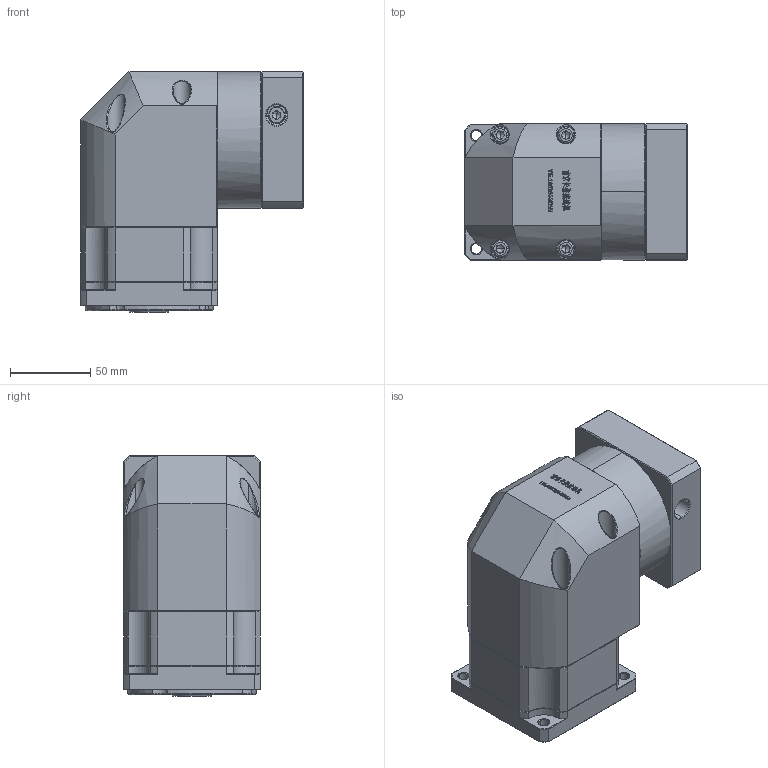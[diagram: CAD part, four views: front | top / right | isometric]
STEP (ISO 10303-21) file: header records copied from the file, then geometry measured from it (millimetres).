
FILE_DESCRIPTION (( 'STEP AP214' ), '1' );
FILE_NAME ('ZBR90-K15-L1-19-80-100-M6.STEP', '2022-05-07T14:44:45', ( '' ), ( 'Microsoft' ), 'SwSTEP 2.0', 'SolidWorks 2016', '' );
FILE_SCHEMA (( 'AUTOMOTIVE_DESIGN' ));
Length unit declared in the file: millimetre
Products named in the file (1): ZBR90-K15-L1-19-80-100-M6
Bounding box: 138.6 x 85 x 150 mm (x, y, z)
Volume: 1171269 mm3; surface area: 129097.1 mm2
Topology: 5 solids, 5 shells, 2949 faces, 7812 edges, 4998 vertices
Faces by surface type: plane 1568, bspline 596, cylinder 411, cone 350, torus 24
Entity records: 157567 total; most frequent: CARTESIAN_POINT 56635, ORIENTED_EDGE 15552, DIRECTION 11908, EDGE_CURVE 7776, LINE 5220, VECTOR 5220, VERTEX_POINT 4998, AXIS2_PLACEMENT_3D 3344
